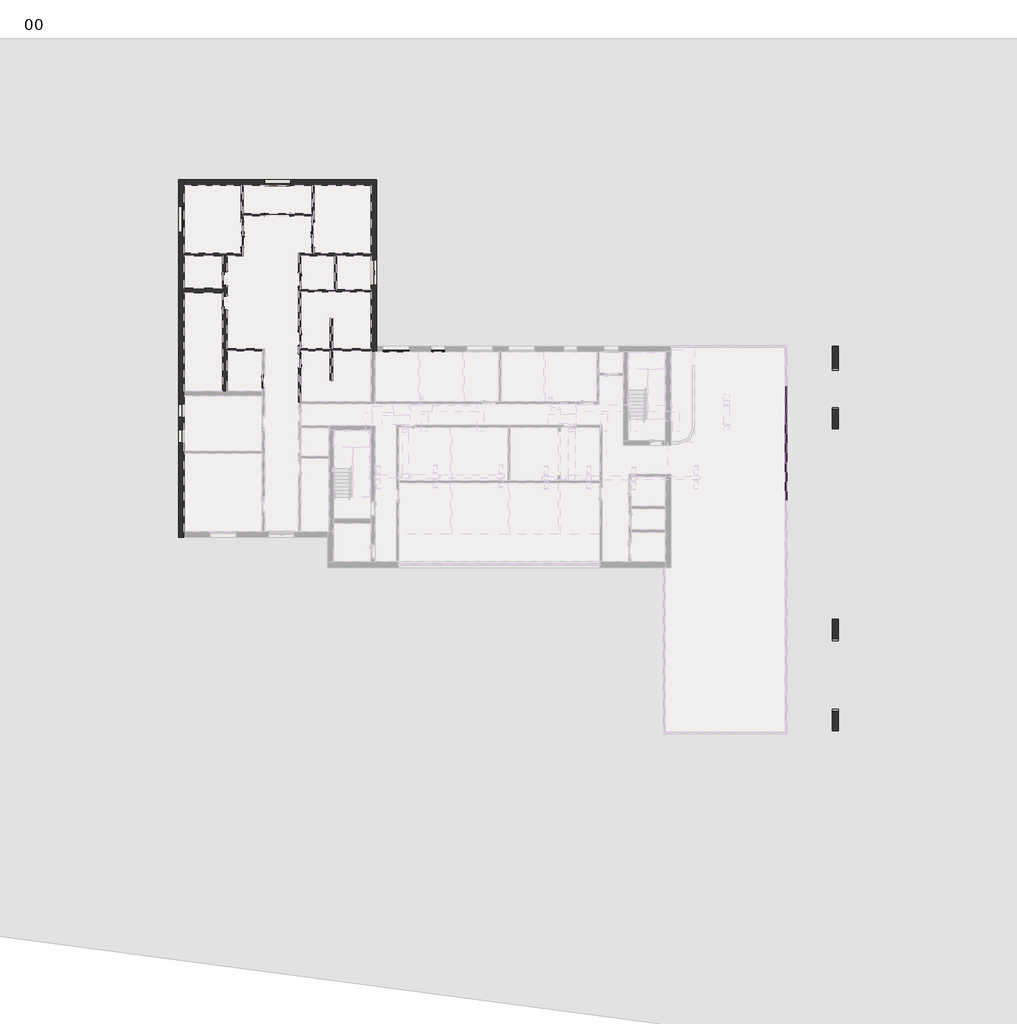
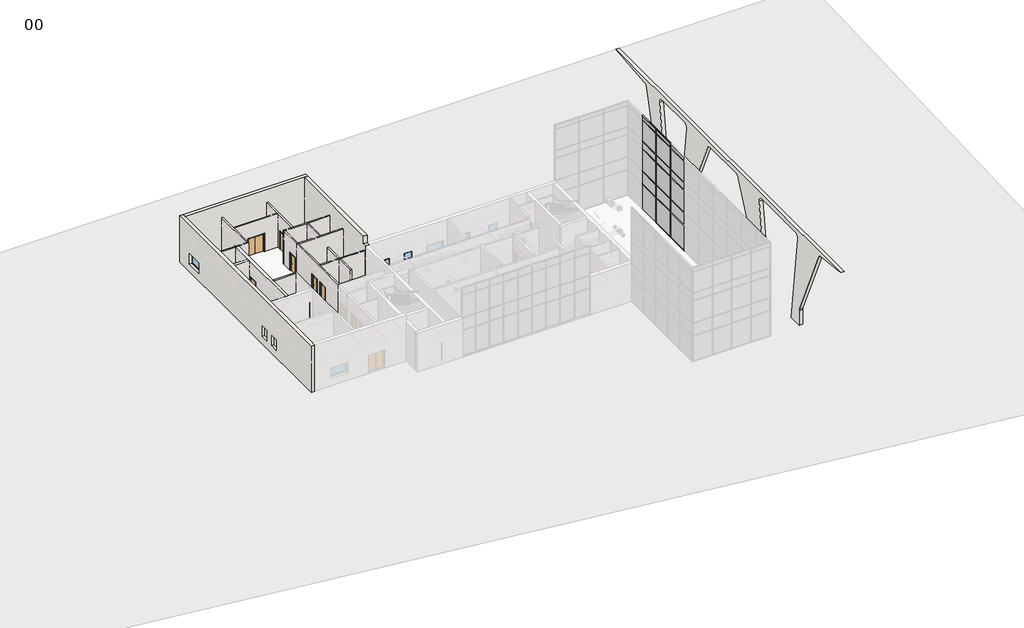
# One storey, part 6 of 12: 28 members, 19 walls, 18 plates, 10 doors, 3 windows.
"""IFC4 building model written with IfcOpenShell, lengths in millimetres."""

from ifc_helpers import new_model, si_unit, point, frame, frame_2d, origin, origin_with_axes, place, context, project, spatial, polyline, circle_curve, trimmed, segment, composite_curve, outline, extrude, faceted_brep, transform, mapped, element, save
from components import doors_concept_extdbl_1810x2110mm_68805f83, doors_concept_intdbl_1810x2110mm_1c066db9, doors_intdbl_3_1810x2110mm_64ebe9ef, doors_intdbl_3_1810x2110mm_1437e5d7, doors_intsgl_1_1010x2110mm_7920e6b8, doors_intsgl_1_1010x2110mm_12a6edaf, doors_intsgl_1_1010x2110mm_5517da8e, doors_intsgl_1_1010x2110mm_5eebe40c, rectangular_mullion_curtainwallmullion_rectangular_generic_8ae0e668, rectangular_mullion_curtainwallmullion_rectangular_generic_08fbcc14, rectangular_mullion_curtainwallmullion_rectangular_generic_5675a122, rectangular_mullion_curtainwallmullion_rectangular_generic_12ad56c0, rectangular_mullion_curtainwallmullion_rectangular_generic_bd817207, rectangular_mullion_curtainwallmullion_rectangular_generic_654ac675, rectangular_mullion_curtainwallmullion_rectangular_generic_c0600e94, rectangular_mullion_curtainwallmullion_rectangular_generic_c640f651, rectangular_mullion_curtainwallmullion_rectangular_generic_b2d53351, system_panel_curtainpanel_glazed_34fb785a, system_panel_curtainpanel_glazed_62d472f1, system_panel_curtainpanel_glazed_9c2ad216, system_panel_curtainpanel_solid_fc584997, system_panel_curtainpanel_solid_60141125, system_panel_curtainpanel_solid_5de49f81, windows_concept_plain_sgl_1810x1210mm_7f7241d7, windows_concept_plain_sgl_910x1210mm_ef0b7ad2

model = new_model("IFC4")

# Units and contexts
model_context = context("Model", 3, world=origin())
ifc_project = project(units=[si_unit("LENGTHUNIT", "METRE", prefix="MILLI")], contexts=[model_context])

# Site, building, storey
site = spatial("IfcSite", under=ifc_project)
building = spatial("IfcBuilding", under=site)
storey = spatial("IfcBuildingStorey", under=building, Name="00", Elevation=0.0)

# Doors
placement = place(None, origin())
doors_concept_extdbl_1810x2110mm_shape = doors_concept_extdbl_1810x2110mm_68805f83(model_context)
element("IfcDoor", 1, ObjectType="Doors_Concept_ExtDbl : 1810x2110mm", at=placement, inside=storey, context=model_context, shape_type="MappedRepresentation", body=[
    mapped(doors_concept_extdbl_1810x2110mm_shape, transform((418436.3206883, -369614.0026386, 0.0), x_axis=(-1.0, 0.0, 0.0), y_axis=(0.0, -1.0, 0.0), z_axis=(0.0, 0.0, 1.0))),
])
doors_concept_intdbl_1810x2110mm_shape = doors_concept_intdbl_1810x2110mm_1c066db9(model_context)
element("IfcDoor", 2, ObjectType="Doors_Concept_IntDbl : 1810x2110mm", at=placement, inside=storey, context=model_context, shape_type="MappedRepresentation", body=[
    mapped(doors_concept_intdbl_1810x2110mm_shape, transform((418436.3206883, -371890.0026386, 0.0), x_axis=(-1.0, 0.0, 0.0), y_axis=(0.0, -1.0, 0.0), z_axis=(0.0, 0.0, 1.0))),
])
doors_intdbl_3_1810x2110mm_shape = doors_intdbl_3_1810x2110mm_64ebe9ef(model_context)
doors_intdbl_3_1810x2110mm_2_shape = doors_intdbl_3_1810x2110mm_1437e5d7(model_context)
element("IfcDoor", 3, ObjectType="Doors_IntDbl_3 : 1810x2110mm", at=placement, inside=storey, context=model_context, shape_type="MappedRepresentation", body=[
    mapped(doors_intdbl_3_1810x2110mm_shape, transform((420937.3206883, -373289.5026386, 0.0), x_axis=(0.0, 1.0, 0.0), y_axis=(-1.0, 0.0, 0.0), z_axis=(0.0, 0.0, 1.0))),
    mapped(doors_intdbl_3_1810x2110mm_2_shape, transform((420937.3206883, -373289.5026386, 0.0), x_axis=(0.0, 1.0, 0.0), y_axis=(-1.0, 0.0, 0.0), z_axis=(0.0, 0.0, 1.0))),
])
element("IfcDoor", 4, ObjectType="Doors_IntDbl_3 : 1810x2110mm", at=placement, inside=storey, context=model_context, shape_type="MappedRepresentation", body=[
    mapped(doors_intdbl_3_1810x2110mm_shape, transform((415935.3206883, -373289.5026386, 0.0), x_axis=(0.0, -1.0, 0.0), y_axis=(1.0, 0.0, 0.0), z_axis=(0.0, 0.0, 1.0))),
    mapped(doors_intdbl_3_1810x2110mm_2_shape, transform((415935.3206883, -373289.5026386, 0.0), x_axis=(0.0, -1.0, 0.0), y_axis=(1.0, 0.0, 0.0), z_axis=(0.0, 0.0, 1.0))),
])
doors_intsgl_1_1010x2110mm_shape = doors_intsgl_1_1010x2110mm_7920e6b8(model_context)
element("IfcDoor", 5, ObjectType="Doors_IntSgl_1 : 1010x2110mm", at=placement, inside=storey, context=model_context, shape_type="MappedRepresentation", body=[
    mapped(doors_intsgl_1_1010x2110mm_shape, transform((417435.3206883, -383609.0026386, 0.0), x_axis=(0.0, -1.0, 0.0), y_axis=(1.0, 0.0, 0.0), z_axis=(0.0, 0.0, 1.0))),
])
element("IfcDoor", 6, ObjectType="Doors_IntSgl_1 : 1010x2110mm", at=placement, inside=storey, context=model_context, shape_type="MappedRepresentation", body=[
    mapped(doors_intsgl_1_1010x2110mm_shape, transform((419987.3206883, -382175.0026386, 0.0), x_axis=(0.0, 1.0, 0.0), y_axis=(-1.0, 0.0, 0.0), z_axis=(0.0, 0.0, 1.0))),
])
doors_intsgl_1_1010x2110mm_2_shape = doors_intsgl_1_1010x2110mm_12a6edaf(model_context)
element("IfcDoor", 7, ObjectType="Doors_IntSgl_1 : 1010x2110mm", at=placement, inside=storey, context=model_context, shape_type="MappedRepresentation", body=[
    mapped(doors_intsgl_1_1010x2110mm_2_shape, transform((419987.3206883, -380615.0026386, 0.0), x_axis=(0.0, -1.0, 0.0), y_axis=(1.0, 0.0, 0.0), z_axis=(0.0, 0.0, 1.0))),
])
element("IfcDoor", 8, ObjectType="Doors_IntSgl_1 : 1010x2110mm", at=placement, inside=storey, context=model_context, shape_type="MappedRepresentation", body=[
    mapped(doors_intsgl_1_1010x2110mm_2_shape, transform((419987.3206883, -376459.0026386, 0.0), x_axis=(0.0, -1.0, 0.0), y_axis=(1.0, 0.0, 0.0), z_axis=(0.0, 0.0, 1.0))),
])
doors_intsgl_1_1010x2110mm_3_shape = doors_intsgl_1_1010x2110mm_5517da8e(model_context)
element("IfcDoor", 9, ObjectType="Doors_IntSgl_1 : 1010x2110mm", at=placement, inside=storey, context=model_context, shape_type="MappedRepresentation", body=[
    mapped(doors_intsgl_1_1010x2110mm_3_shape, transform((414735.3206883, -378099.0026386, 0.0), x_axis=(0.0, 1.0, 0.0), y_axis=(-1.0, 0.0, 0.0), z_axis=(0.0, 0.0, 1.0))),
])
doors_intsgl_1_1010x2110mm_4_shape = doors_intsgl_1_1010x2110mm_5eebe40c(model_context)
element("IfcDoor", 10, ObjectType="Doors_IntSgl_1 : 1010x2110mm", at=placement, inside=storey, context=model_context, shape_type="MappedRepresentation", body=[
    mapped(doors_intsgl_1_1010x2110mm_4_shape, transform((414735.3206883, -376379.0026386, 0.0), x_axis=(0.0, -1.0, 0.0), y_axis=(1.0, 0.0, 0.0), z_axis=(0.0, 0.0, 1.0))),
])

# Members
rectangular_mullion_curtainwallmullion_rectangular_generic_shape = rectangular_mullion_curtainwallmullion_rectangular_generic_8ae0e668(model_context)
element("IfcMember", 11, ObjectType="Rectangular Mullion : CurtainWallMullion_Rectangular_Generic", at=placement, inside=storey, context=model_context, shape_type="MappedRepresentation", body=[
    mapped(rectangular_mullion_curtainwallmullion_rectangular_generic_shape, transform((454246.3206883, -386624.2026388, 10486.7), x_axis=(0.0, -1.0, 0.0), y_axis=(-1.0, 0.0, 0.0), z_axis=(0.0, 0.0, -1.0))),
])
element("IfcMember", 12, ObjectType="Rectangular Mullion : CurtainWallMullion_Rectangular_Generic", at=placement, inside=storey, context=model_context, shape_type="MappedRepresentation", body=[
    mapped(rectangular_mullion_curtainwallmullion_rectangular_generic_shape, transform((454246.3206883, -389338.8026387, 10486.7), x_axis=(0.0, -1.0, 0.0), y_axis=(-1.0, 0.0, 0.0), z_axis=(0.0, 0.0, -1.0))),
])
rectangular_mullion_curtainwallmullion_rectangular_generic_2_shape = rectangular_mullion_curtainwallmullion_rectangular_generic_08fbcc14(model_context)
element("IfcMember", 13, ObjectType="Rectangular Mullion : CurtainWallMullion_Rectangular_Generic", at=placement, inside=storey, context=model_context, shape_type="MappedRepresentation", body=[
    mapped(rectangular_mullion_curtainwallmullion_rectangular_generic_2_shape, transform((454246.3206883, -386624.2026388, 8000.0), x_axis=(0.0, -1.0, 0.0), y_axis=(-1.0, 0.0, 0.0), z_axis=(0.0, 0.0, -1.0))),
])
element("IfcMember", 14, ObjectType="Rectangular Mullion : CurtainWallMullion_Rectangular_Generic", at=placement, inside=storey, context=model_context, shape_type="MappedRepresentation", body=[
    mapped(rectangular_mullion_curtainwallmullion_rectangular_generic_2_shape, transform((454246.3206883, -389338.8026387, 8000.0), x_axis=(0.0, -1.0, 0.0), y_axis=(-1.0, 0.0, 0.0), z_axis=(0.0, 0.0, -1.0))),
])
rectangular_mullion_curtainwallmullion_rectangular_generic_3_shape = rectangular_mullion_curtainwallmullion_rectangular_generic_5675a122(model_context)
element("IfcMember", 15, ObjectType="Rectangular Mullion : CurtainWallMullion_Rectangular_Generic", at=placement, inside=storey, context=model_context, shape_type="MappedRepresentation", body=[
    mapped(rectangular_mullion_curtainwallmullion_rectangular_generic_3_shape, transform((454246.3206883, -386624.2026388, 50.0), x_axis=(0.0, -1.0, 0.0), y_axis=(-1.0, 0.0, 0.0), z_axis=(0.0, 0.0, -1.0))),
])
element("IfcMember", 16, ObjectType="Rectangular Mullion : CurtainWallMullion_Rectangular_Generic", at=placement, inside=storey, context=model_context, shape_type="MappedRepresentation", body=[
    mapped(rectangular_mullion_curtainwallmullion_rectangular_generic_3_shape, transform((454246.3206883, -389338.8026387, 50.0), x_axis=(0.0, -1.0, 0.0), y_axis=(-1.0, 0.0, 0.0), z_axis=(0.0, 0.0, -1.0))),
])
rectangular_mullion_curtainwallmullion_rectangular_generic_4_shape = rectangular_mullion_curtainwallmullion_rectangular_generic_12ad56c0(model_context)
element("IfcMember", 17, ObjectType="Rectangular Mullion : CurtainWallMullion_Rectangular_Generic", at=placement, inside=storey, context=model_context, shape_type="MappedRepresentation", body=[
    mapped(rectangular_mullion_curtainwallmullion_rectangular_generic_4_shape, transform((454246.3206883, -386624.2026388, 11000.0), x_axis=(0.0, 0.0, 1.0), y_axis=(-1.0, 0.0, 0.0), z_axis=(0.0, -1.0, 0.0))),
])
element("IfcMember", 18, ObjectType="Rectangular Mullion : CurtainWallMullion_Rectangular_Generic", at=placement, inside=storey, context=model_context, shape_type="MappedRepresentation", body=[
    mapped(rectangular_mullion_curtainwallmullion_rectangular_generic_4_shape, transform((454246.3206883, -389338.8026387, 11000.0), x_axis=(0.0, 0.0, 1.0), y_axis=(-1.0, 0.0, 0.0), z_axis=(0.0, -1.0, 0.0))),
])
element("IfcMember", 19, ObjectType="Rectangular Mullion : CurtainWallMullion_Rectangular_Generic", at=placement, inside=storey, context=model_context, shape_type="MappedRepresentation", body=[
    mapped(rectangular_mullion_curtainwallmullion_rectangular_generic_4_shape, transform((454246.3206883, -386624.2026388, 0.0), x_axis=(0.0, 0.0, -1.0), y_axis=(-1.0, 0.0, 0.0), z_axis=(0.0, 1.0, 0.0))),
])
element("IfcMember", 20, ObjectType="Rectangular Mullion : CurtainWallMullion_Rectangular_Generic", at=placement, inside=storey, context=model_context, shape_type="MappedRepresentation", body=[
    mapped(rectangular_mullion_curtainwallmullion_rectangular_generic_4_shape, transform((454246.3206883, -389338.8026387, 0.0), x_axis=(0.0, 0.0, -1.0), y_axis=(-1.0, 0.0, 0.0), z_axis=(0.0, 1.0, 0.0))),
])
rectangular_mullion_curtainwallmullion_rectangular_generic_5_shape = rectangular_mullion_curtainwallmullion_rectangular_generic_bd817207(model_context)
element("IfcMember", 21, ObjectType="Rectangular Mullion : CurtainWallMullion_Rectangular_Generic", at=placement, inside=storey, context=model_context, shape_type="MappedRepresentation", body=[
    mapped(rectangular_mullion_curtainwallmullion_rectangular_generic_5_shape, transform((454246.3206883, -386599.2026388, 4500.0), x_axis=(0.0, 0.0, 1.0), y_axis=(-1.0, 0.0, 0.0), z_axis=(0.0, -1.0, 0.0))),
])
element("IfcMember", 22, ObjectType="Rectangular Mullion : CurtainWallMullion_Rectangular_Generic", at=placement, inside=storey, context=model_context, shape_type="MappedRepresentation", body=[
    mapped(rectangular_mullion_curtainwallmullion_rectangular_generic_5_shape, transform((454246.3206883, -389313.8026387, 4500.0), x_axis=(0.0, 0.0, 1.0), y_axis=(-1.0, 0.0, 0.0), z_axis=(0.0, -1.0, 0.0))),
])
element("IfcMember", 23, ObjectType="Rectangular Mullion : CurtainWallMullion_Rectangular_Generic", at=placement, inside=storey, context=model_context, shape_type="MappedRepresentation", body=[
    mapped(rectangular_mullion_curtainwallmullion_rectangular_generic_5_shape, transform((454246.3206883, -386599.2026388, 7100.0), x_axis=(0.0, 0.0, 1.0), y_axis=(-1.0, 0.0, 0.0), z_axis=(0.0, -1.0, 0.0))),
])
element("IfcMember", 24, ObjectType="Rectangular Mullion : CurtainWallMullion_Rectangular_Generic", at=placement, inside=storey, context=model_context, shape_type="MappedRepresentation", body=[
    mapped(rectangular_mullion_curtainwallmullion_rectangular_generic_5_shape, transform((454246.3206883, -389313.8026387, 7100.0), x_axis=(0.0, 0.0, 1.0), y_axis=(-1.0, 0.0, 0.0), z_axis=(0.0, -1.0, 0.0))),
])
element("IfcMember", 25, ObjectType="Rectangular Mullion : CurtainWallMullion_Rectangular_Generic", at=placement, inside=storey, context=model_context, shape_type="MappedRepresentation", body=[
    mapped(rectangular_mullion_curtainwallmullion_rectangular_generic_5_shape, transform((454246.3206883, -386599.2026388, 10486.7), x_axis=(0.0, 0.0, 1.0), y_axis=(-1.0, 0.0, 0.0), z_axis=(0.0, -1.0, 0.0))),
])
element("IfcMember", 26, ObjectType="Rectangular Mullion : CurtainWallMullion_Rectangular_Generic", at=placement, inside=storey, context=model_context, shape_type="MappedRepresentation", body=[
    mapped(rectangular_mullion_curtainwallmullion_rectangular_generic_5_shape, transform((454246.3206883, -389313.8026387, 10486.7), x_axis=(0.0, 0.0, 1.0), y_axis=(-1.0, 0.0, 0.0), z_axis=(0.0, -1.0, 0.0))),
])
element("IfcMember", 27, ObjectType="Rectangular Mullion : CurtainWallMullion_Rectangular_Generic", at=placement, inside=storey, context=model_context, shape_type="MappedRepresentation", body=[
    mapped(rectangular_mullion_curtainwallmullion_rectangular_generic_5_shape, transform((454246.3206883, -386599.2026388, 8000.0), x_axis=(0.0, 0.0, 1.0), y_axis=(-1.0, 0.0, 0.0), z_axis=(0.0, -1.0, 0.0))),
])
element("IfcMember", 28, ObjectType="Rectangular Mullion : CurtainWallMullion_Rectangular_Generic", at=placement, inside=storey, context=model_context, shape_type="MappedRepresentation", body=[
    mapped(rectangular_mullion_curtainwallmullion_rectangular_generic_5_shape, transform((454246.3206883, -389313.8026387, 8000.0), x_axis=(0.0, 0.0, 1.0), y_axis=(-1.0, 0.0, 0.0), z_axis=(0.0, -1.0, 0.0))),
])
element("IfcMember", 29, ObjectType="Rectangular Mullion : CurtainWallMullion_Rectangular_Generic", at=placement, inside=storey, context=model_context, shape_type="MappedRepresentation", body=[
    mapped(rectangular_mullion_curtainwallmullion_rectangular_generic_5_shape, transform((454246.3206883, -386599.2026388, 3000.0), x_axis=(0.0, 0.0, 1.0), y_axis=(-1.0, 0.0, 0.0), z_axis=(0.0, -1.0, 0.0))),
])
element("IfcMember", 30, ObjectType="Rectangular Mullion : CurtainWallMullion_Rectangular_Generic", at=placement, inside=storey, context=model_context, shape_type="MappedRepresentation", body=[
    mapped(rectangular_mullion_curtainwallmullion_rectangular_generic_5_shape, transform((454246.3206883, -389313.8026387, 3000.0), x_axis=(0.0, 0.0, 1.0), y_axis=(-1.0, 0.0, 0.0), z_axis=(0.0, -1.0, 0.0))),
])
rectangular_mullion_curtainwallmullion_rectangular_generic_6_shape = rectangular_mullion_curtainwallmullion_rectangular_generic_654ac675(model_context)
element("IfcMember", 31, ObjectType="Rectangular Mullion : CurtainWallMullion_Rectangular_Generic", at=placement, inside=storey, context=model_context, shape_type="MappedRepresentation", body=[
    mapped(rectangular_mullion_curtainwallmullion_rectangular_generic_6_shape, transform((454246.3206883, -386624.2026388, 4500.0), x_axis=(0.0, -1.0, 0.0), y_axis=(-1.0, 0.0, 0.0), z_axis=(0.0, 0.0, -1.0))),
])
element("IfcMember", 32, ObjectType="Rectangular Mullion : CurtainWallMullion_Rectangular_Generic", at=placement, inside=storey, context=model_context, shape_type="MappedRepresentation", body=[
    mapped(rectangular_mullion_curtainwallmullion_rectangular_generic_6_shape, transform((454246.3206883, -389338.8026387, 4500.0), x_axis=(0.0, -1.0, 0.0), y_axis=(-1.0, 0.0, 0.0), z_axis=(0.0, 0.0, -1.0))),
])
rectangular_mullion_curtainwallmullion_rectangular_generic_7_shape = rectangular_mullion_curtainwallmullion_rectangular_generic_c0600e94(model_context)
element("IfcMember", 33, ObjectType="Rectangular Mullion : CurtainWallMullion_Rectangular_Generic", at=placement, inside=storey, context=model_context, shape_type="MappedRepresentation", body=[
    mapped(rectangular_mullion_curtainwallmullion_rectangular_generic_7_shape, transform((454246.3206883, -386624.2026388, 3000.0), x_axis=(0.0, -1.0, 0.0), y_axis=(-1.0, 0.0, 0.0), z_axis=(0.0, 0.0, -1.0))),
])
element("IfcMember", 34, ObjectType="Rectangular Mullion : CurtainWallMullion_Rectangular_Generic", at=placement, inside=storey, context=model_context, shape_type="MappedRepresentation", body=[
    mapped(rectangular_mullion_curtainwallmullion_rectangular_generic_7_shape, transform((454246.3206883, -389338.8026387, 3000.0), x_axis=(0.0, -1.0, 0.0), y_axis=(-1.0, 0.0, 0.0), z_axis=(0.0, 0.0, -1.0))),
])
rectangular_mullion_curtainwallmullion_rectangular_generic_8_shape = rectangular_mullion_curtainwallmullion_rectangular_generic_c640f651(model_context)
element("IfcMember", 35, ObjectType="Rectangular Mullion : CurtainWallMullion_Rectangular_Generic", at=placement, inside=storey, context=model_context, shape_type="MappedRepresentation", body=[
    mapped(rectangular_mullion_curtainwallmullion_rectangular_generic_8_shape, transform((454246.3206883, -386624.2026388, 7100.0), x_axis=(0.0, -1.0, 0.0), y_axis=(-1.0, 0.0, 0.0), z_axis=(0.0, 0.0, -1.0))),
])
element("IfcMember", 36, ObjectType="Rectangular Mullion : CurtainWallMullion_Rectangular_Generic", at=placement, inside=storey, context=model_context, shape_type="MappedRepresentation", body=[
    mapped(rectangular_mullion_curtainwallmullion_rectangular_generic_8_shape, transform((454246.3206883, -389338.8026387, 7100.0), x_axis=(0.0, -1.0, 0.0), y_axis=(-1.0, 0.0, 0.0), z_axis=(0.0, 0.0, -1.0))),
])
rectangular_mullion_curtainwallmullion_rectangular_generic_9_shape = rectangular_mullion_curtainwallmullion_rectangular_generic_b2d53351(model_context)
element("IfcMember", 37, ObjectType="Rectangular Mullion : CurtainWallMullion_Rectangular_Generic", at=placement, inside=storey, context=model_context, shape_type="MappedRepresentation", body=[
    mapped(rectangular_mullion_curtainwallmullion_rectangular_generic_9_shape, transform((454246.3206883, -386624.2026388, 2425.0), x_axis=(0.0, -1.0, 0.0), y_axis=(-1.0, 0.0, 0.0), z_axis=(0.0, 0.0, -1.0))),
])
element("IfcMember", 38, ObjectType="Rectangular Mullion : CurtainWallMullion_Rectangular_Generic", at=placement, inside=storey, context=model_context, shape_type="MappedRepresentation", body=[
    mapped(rectangular_mullion_curtainwallmullion_rectangular_generic_9_shape, transform((454246.3206883, -389338.8026387, 2425.0), x_axis=(0.0, -1.0, 0.0), y_axis=(-1.0, 0.0, 0.0), z_axis=(0.0, 0.0, -1.0))),
])

# Plates
system_panel_curtainpanel_glazed_shape = system_panel_curtainpanel_glazed_34fb785a(model_context)
element("IfcPlate", 39, ObjectType="System Panel : CurtainPanel_Glazed", at=placement, inside=storey, context=model_context, shape_type="MappedRepresentation", body=[
    mapped(system_panel_curtainpanel_glazed_shape, transform((454246.3206883, -385266.9026388, 8025.0), x_axis=(0.0, -1.0, 0.0), y_axis=(1.0, 0.0, 0.0), z_axis=(0.0, 0.0, 1.0))),
])
element("IfcPlate", 40, ObjectType="System Panel : CurtainPanel_Glazed", at=placement, inside=storey, context=model_context, shape_type="MappedRepresentation", body=[
    mapped(system_panel_curtainpanel_glazed_shape, transform((454246.3206883, -387981.5026388, 8025.0), x_axis=(0.0, -1.0, 0.0), y_axis=(1.0, 0.0, 0.0), z_axis=(0.0, 0.0, 1.0))),
])
element("IfcPlate", 41, ObjectType="System Panel : CurtainPanel_Glazed", at=placement, inside=storey, context=model_context, shape_type="MappedRepresentation", body=[
    mapped(system_panel_curtainpanel_glazed_shape, transform((454246.3206883, -390696.1026387, 8025.0), x_axis=(0.0, -1.0, 0.0), y_axis=(1.0, 0.0, 0.0), z_axis=(0.0, 0.0, 1.0))),
])
system_panel_curtainpanel_glazed_2_shape = system_panel_curtainpanel_glazed_62d472f1(model_context)
element("IfcPlate", 42, ObjectType="System Panel : CurtainPanel_Glazed", at=placement, inside=storey, context=model_context, shape_type="MappedRepresentation", body=[
    mapped(system_panel_curtainpanel_glazed_2_shape, transform((454246.3206883, -385266.9026388, 50.0), x_axis=(0.0, -1.0, 0.0), y_axis=(1.0, 0.0, 0.0), z_axis=(0.0, 0.0, 1.0))),
])
element("IfcPlate", 43, ObjectType="System Panel : CurtainPanel_Glazed", at=placement, inside=storey, context=model_context, shape_type="MappedRepresentation", body=[
    mapped(system_panel_curtainpanel_glazed_2_shape, transform((454246.3206883, -387981.5026388, 50.0), x_axis=(0.0, -1.0, 0.0), y_axis=(1.0, 0.0, 0.0), z_axis=(0.0, 0.0, 1.0))),
])
element("IfcPlate", 44, ObjectType="System Panel : CurtainPanel_Glazed", at=placement, inside=storey, context=model_context, shape_type="MappedRepresentation", body=[
    mapped(system_panel_curtainpanel_glazed_2_shape, transform((454246.3206883, -390696.1026387, 50.0), x_axis=(0.0, -1.0, 0.0), y_axis=(1.0, 0.0, 0.0), z_axis=(0.0, 0.0, 1.0))),
])
system_panel_curtainpanel_glazed_3_shape = system_panel_curtainpanel_glazed_9c2ad216(model_context)
element("IfcPlate", 45, ObjectType="System Panel : CurtainPanel_Glazed", at=placement, inside=storey, context=model_context, shape_type="MappedRepresentation", body=[
    mapped(system_panel_curtainpanel_glazed_3_shape, transform((454246.3206883, -385266.9026388, 4525.0), x_axis=(0.0, -1.0, 0.0), y_axis=(1.0, 0.0, 0.0), z_axis=(0.0, 0.0, 1.0))),
])
element("IfcPlate", 46, ObjectType="System Panel : CurtainPanel_Glazed", at=placement, inside=storey, context=model_context, shape_type="MappedRepresentation", body=[
    mapped(system_panel_curtainpanel_glazed_3_shape, transform((454246.3206883, -387981.5026388, 4525.0), x_axis=(0.0, -1.0, 0.0), y_axis=(1.0, 0.0, 0.0), z_axis=(0.0, 0.0, 1.0))),
])
element("IfcPlate", 47, ObjectType="System Panel : CurtainPanel_Glazed", at=placement, inside=storey, context=model_context, shape_type="MappedRepresentation", body=[
    mapped(system_panel_curtainpanel_glazed_3_shape, transform((454246.3206883, -390696.1026387, 4525.0), x_axis=(0.0, -1.0, 0.0), y_axis=(1.0, 0.0, 0.0), z_axis=(0.0, 0.0, 1.0))),
])
system_panel_curtainpanel_solid_shape = system_panel_curtainpanel_solid_fc584997(model_context)
element("IfcPlate", 48, ObjectType="System Panel : CurtainPanel_Solid", at=placement, inside=storey, context=model_context, shape_type="MappedRepresentation", body=[
    mapped(system_panel_curtainpanel_solid_shape, transform((454246.3206883, -385266.9026388, 10511.7), x_axis=(0.0, -1.0, 0.0), y_axis=(1.0, 0.0, 0.0), z_axis=(0.0, 0.0, 1.0))),
])
element("IfcPlate", 49, ObjectType="System Panel : CurtainPanel_Solid", at=placement, inside=storey, context=model_context, shape_type="MappedRepresentation", body=[
    mapped(system_panel_curtainpanel_solid_shape, transform((454246.3206883, -387981.5026388, 10511.7), x_axis=(0.0, -1.0, 0.0), y_axis=(1.0, 0.0, 0.0), z_axis=(0.0, 0.0, 1.0))),
])
element("IfcPlate", 50, ObjectType="System Panel : CurtainPanel_Solid", at=placement, inside=storey, context=model_context, shape_type="MappedRepresentation", body=[
    mapped(system_panel_curtainpanel_solid_shape, transform((454246.3206883, -390696.1026387, 10511.7), x_axis=(0.0, -1.0, 0.0), y_axis=(1.0, 0.0, 0.0), z_axis=(0.0, 0.0, 1.0))),
])
system_panel_curtainpanel_solid_2_shape = system_panel_curtainpanel_solid_60141125(model_context)
element("IfcPlate", 51, ObjectType="System Panel : CurtainPanel_Solid", at=placement, inside=storey, context=model_context, shape_type="MappedRepresentation", body=[
    mapped(system_panel_curtainpanel_solid_2_shape, transform((454246.3206883, -385266.9026388, 3025.0), x_axis=(0.0, -1.0, 0.0), y_axis=(1.0, 0.0, 0.0), z_axis=(0.0, 0.0, 1.0))),
])
element("IfcPlate", 52, ObjectType="System Panel : CurtainPanel_Solid", at=placement, inside=storey, context=model_context, shape_type="MappedRepresentation", body=[
    mapped(system_panel_curtainpanel_solid_2_shape, transform((454246.3206883, -387981.5026388, 3025.0), x_axis=(0.0, -1.0, 0.0), y_axis=(1.0, 0.0, 0.0), z_axis=(0.0, 0.0, 1.0))),
])
element("IfcPlate", 53, ObjectType="System Panel : CurtainPanel_Solid", at=placement, inside=storey, context=model_context, shape_type="MappedRepresentation", body=[
    mapped(system_panel_curtainpanel_solid_2_shape, transform((454246.3206883, -390696.1026387, 3025.0), x_axis=(0.0, -1.0, 0.0), y_axis=(1.0, 0.0, 0.0), z_axis=(0.0, 0.0, 1.0))),
])
system_panel_curtainpanel_solid_3_shape = system_panel_curtainpanel_solid_5de49f81(model_context)
element("IfcPlate", 54, ObjectType="System Panel : CurtainPanel_Solid", at=placement, inside=storey, context=model_context, shape_type="MappedRepresentation", body=[
    mapped(system_panel_curtainpanel_solid_3_shape, transform((454246.3206883, -385266.9026388, 7125.0), x_axis=(0.0, -1.0, 0.0), y_axis=(1.0, 0.0, 0.0), z_axis=(0.0, 0.0, 1.0))),
])
element("IfcPlate", 55, ObjectType="System Panel : CurtainPanel_Solid", at=placement, inside=storey, context=model_context, shape_type="MappedRepresentation", body=[
    mapped(system_panel_curtainpanel_solid_3_shape, transform((454246.3206883, -387981.5026388, 7125.0), x_axis=(0.0, -1.0, 0.0), y_axis=(1.0, 0.0, 0.0), z_axis=(0.0, 0.0, 1.0))),
])
element("IfcPlate", 56, ObjectType="System Panel : CurtainPanel_Solid", at=placement, inside=storey, context=model_context, shape_type="MappedRepresentation", body=[
    mapped(system_panel_curtainpanel_solid_3_shape, transform((454246.3206883, -390696.1026387, 7125.0), x_axis=(0.0, -1.0, 0.0), y_axis=(1.0, 0.0, 0.0), z_axis=(0.0, 0.0, 1.0))),
])

# Walls
element("IfcWall", 57, ObjectType="Wall_Exterior_WSUK", at=placement, inside=storey, context=model_context, shape_type="Brep", body=[
    faceted_brep([(411860.3206883, -394596.0026386, -1000.0), (411860.3206883, -394194.0026386, -1000.0), (411860.3206883, -369815.0026386, -1000.0), (411860.3206883, -369413.0026386, -1000.0), (411860.3206883, -369413.0026386, 5400.0), (411860.3206883, -369815.0026386, 5400.0), (411860.3206883, -394194.0026386, 5400.0), (411860.3206883, -394596.0026386, 5400.0), (411860.3206883, -371309.5026386, 2110.0), (411860.3206883, -371309.5026386, 900.0), (411860.3206883, -373119.5026386, 900.0), (411860.3206883, -373119.5026386, 2110.0), (411860.3206883, -385224.0026386, 2110.0), (411860.3206883, -385224.0026386, 900.0), (411860.3206883, -386134.0026386, 900.0), (411860.3206883, -386134.0026386, 2110.0), (411860.3206883, -387034.0026386, 2110.0), (411860.3206883, -387034.0026386, 900.0), (411860.3206883, -387944.0026386, 900.0), (411860.3206883, -387944.0026386, 2110.0), (411458.3206883, -394596.0026386, -1000.0), (411458.3206883, -394596.0026386, 5400.0), (411458.3206883, -369413.0026386, 5400.0), (411458.3206883, -369413.0026386, -1000.0), (411458.3206883, -371309.5026386, 2110.0), (411458.3206883, -373119.5026386, 2110.0), (411458.3206883, -373119.5026386, 900.0), (411458.3206883, -371309.5026386, 900.0), (411458.3206883, -385224.0026386, 2110.0), (411458.3206883, -386134.0026386, 2110.0), (411458.3206883, -386134.0026386, 900.0), (411458.3206883, -385224.0026386, 900.0), (411458.3206883, -387034.0026386, 2110.0), (411458.3206883, -387944.0026386, 2110.0), (411458.3206883, -387944.0026386, 900.0), (411458.3206883, -387034.0026386, 900.0)], [[[0, 1, 2, 3, 4, 5, 6, 7], [8, 9, 10, 11], [12, 13, 14, 15], [16, 17, 18, 19]], [[20, 21, 22, 23], [24, 25, 26, 27], [28, 29, 30, 31], [32, 33, 34, 35]], [[3, 2, 1, 0, 20, 23]], [[7, 6, 5, 4, 22, 21]], [[9, 8, 24, 27]], [[10, 9, 27, 26]], [[11, 10, 26, 25]], [[8, 11, 25, 24]], [[13, 12, 28, 31]], [[14, 13, 31, 30]], [[15, 14, 30, 29]], [[12, 15, 29, 28]], [[17, 16, 32, 35]], [[18, 17, 35, 34]], [[19, 18, 34, 33]], [[16, 19, 33, 32]], [[4, 3, 23, 22]], [[0, 7, 21, 20]]]),
])
element("IfcWall", 58, ObjectType="Wall_Exterior_WSUK", at=placement, inside=storey, context=model_context, shape_type="Brep", body=[
    faceted_brep([(411860.3206883, -369815.0026386, -1000.0), (425012.3206883, -369815.0026386, -1000.0), (425414.3206883, -369815.0026386, -1000.0), (425414.3206883, -369815.0026386, 5400.0), (425012.3206883, -369815.0026386, 5400.0), (411860.3206883, -369815.0026386, 5400.0), (419341.3206883, -369815.0026386, 2110.0), (419341.3206883, -369815.0026386, 0.0), (417531.3206883, -369815.0026386, 0.0), (417531.3206883, -369815.0026386, 2110.0), (425414.3206883, -369413.0026386, -1000.0), (411860.3206883, -369413.0026386, -1000.0), (411860.3206883, -369413.0026386, 5400.0), (425414.3206883, -369413.0026386, 5400.0), (419341.3206883, -369413.0026386, 0.0), (419341.3206883, -369413.0026386, 2110.0), (417531.3206883, -369413.0026386, 2110.0), (417531.3206883, -369413.0026386, 0.0)], [[[0, 1, 2, 3, 4, 5], [6, 7, 8, 9]], [[10, 11, 12, 13], [14, 15, 16, 17]], [[2, 1, 0, 11, 10]], [[5, 4, 3, 13, 12]], [[3, 2, 10, 13]], [[6, 15, 14, 7]], [[7, 14, 17, 8]], [[8, 17, 16, 9]], [[15, 6, 9, 16]], [[0, 5, 12, 11]]]),
])
element("IfcWall", 59, ObjectType="Wall_Exterior_WSUK", at=placement, inside=storey, context=model_context, shape_type="Brep", body=[
    faceted_brep([(425012.3206883, -369815.0026386, -1000.0), (425012.3206883, -381550.0026386, -1000.0), (425012.3206883, -381550.0026386, 4500.0), (425012.3206883, -381148.0026386, 4500.0), (425012.3206883, -381148.0026386, 5400.0), (425012.3206883, -369815.0026386, 5400.0), (425012.3206883, -376844.0026386, 0.0), (425012.3206883, -375084.0026386, 0.0), (425012.3206883, -375084.0026386, 2110.0), (425012.3206883, -376844.0026386, 2110.0), (425414.3206883, -381550.0026386, -1000.0), (425414.3206883, -381148.0026386, -1000.0), (425414.3206883, -369815.0026386, -1000.0), (425414.3206883, -369815.0026386, 5400.0), (425414.3206883, -381148.0026386, 5400.0), (425414.3206883, -381148.0026386, 4500.0), (425414.3206883, -381550.0026386, 4500.0), (425414.3206883, -375059.0026386, 2110.0), (425414.3206883, -375059.0026386, 0.0), (425414.3206883, -376869.0026386, 0.0), (425414.3206883, -376869.0026386, 2110.0), (425322.3206883, -381550.0026386, -1000.0), (425114.8206883, -376869.0026386, 2110.0), (425114.8206883, -376869.0026386, 0.0), (425114.8206883, -376844.0026386, 0.0), (425114.8206883, -376844.0026386, 2110.0), (425114.8206883, -375059.0026386, 0.0), (425114.8206883, -375059.0026386, 2110.0), (425114.8206883, -375084.0026386, 2110.0), (425114.8206883, -375084.0026386, 0.0), (425322.3206883, -381550.0026386, 4500.0)], [[[0, 1, 2, 3, 4, 5], [6, 7, 8, 9]], [[10, 11, 12, 13, 14, 15, 16], [17, 18, 19, 20]], [[1, 0, 12, 11, 10, 21]], [[5, 4, 14, 13]], [[0, 5, 13, 12]], [[22, 23, 24, 25]], [[26, 27, 28, 29]], [[27, 26, 18, 17]], [[24, 23, 19, 18, 26, 29, 7, 6]], [[23, 22, 20, 19]], [[22, 25, 9, 8, 28, 27, 17, 20]], [[25, 24, 6, 9]], [[29, 28, 8, 7]], [[3, 2, 30, 16, 15]], [[1, 21, 10, 16, 30, 2]], [[14, 4, 3, 15]]]),
])
element("IfcWall", 60, ObjectType="Wall_Interior_WSUK", at=placement, inside=storey, context=model_context, shape_type="Brep", body=[
    faceted_brep([(420062.3206883, -377314.0026386, 0.0), (425012.3206883, -377314.0026386, 0.0), (425012.3206883, -377314.0026386, 3900.0), (420062.3206883, -377314.0026386, 3900.0), (420062.3206883, -377164.0026386, 0.0), (420062.3206883, -377164.0026386, 3900.0), (422462.3206883, -377164.0026386, 3900.0), (422612.3206883, -377164.0026386, 3900.0), (425012.3206883, -377164.0026386, 3900.0), (425012.3206883, -377164.0026386, 0.0), (422612.3206883, -377164.0026386, 0.0), (422462.3206883, -377164.0026386, 0.0)], [[[0, 1, 2, 3]], [[4, 5, 6, 7, 8, 9, 10, 11]], [[1, 0, 4, 11, 10, 9]], [[3, 2, 8, 7, 6, 5]], [[0, 3, 5, 4]], [[2, 1, 9, 8]]]),
])
element("IfcWall", 61, ObjectType="Wall_Interior_WSUK", at=placement, inside=storey, context=model_context, shape_type="SweptSolid", body=[
    extrude(outline(polyline([(-377164.0026386, 3900.0), (-374764.0026386, 3900.0), (-374764.0026386, 0.0), (-375954.0026386, 0.0), (-375954.0026386, 2110.0), (-376964.0026386, 2110.0), (-376964.0026386, 0.0), (-377164.0026386, 0.0), (-377164.0026386, 3900.0)])), frame((419912.3206883, 0.0, 0.0), z_axis=(1.0, 0.0, 0.0), x_axis=(0.0, 1.0, 0.0)), (0.0, 0.0, 1.0), 150.0),
])
element("IfcWall", 62, ObjectType="Wall_Interior_WSUK", at=placement, inside=storey, context=model_context, shape_type="Brep", body=[
    faceted_brep([(420062.3206883, -377164.0026386, 3900.0), (420062.3206883, -377314.0026386, 3900.0), (420062.3206883, -381320.0026386, 3900.0), (420062.3206883, -381470.0026386, 3900.0), (420062.3206883, -385049.0026386, 3900.0), (420062.3206883, -385124.0026386, 3900.0), (420062.3206883, -385124.0026386, 0.0), (420062.3206883, -385049.0026386, 0.0), (420062.3206883, -382680.0026386, 0.0), (420062.3206883, -382680.0026386, 2110.0), (420062.3206883, -381670.0026386, 2110.0), (420062.3206883, -381670.0026386, 0.0), (420062.3206883, -381470.0026386, 0.0), (420062.3206883, -381320.0026386, 0.0), (420062.3206883, -381120.0026386, 0.0), (420062.3206883, -381120.0026386, 2110.0), (420062.3206883, -380110.0026386, 2110.0), (420062.3206883, -380110.0026386, 0.0), (420062.3206883, -377314.0026386, 0.0), (420062.3206883, -377164.0026386, 0.0), (419912.3206883, -385124.0026386, 3900.0), (419912.3206883, -377164.0026386, 3900.0), (419912.3206883, -377164.0026386, 0.0), (419912.3206883, -380110.0026386, 0.0), (419912.3206883, -380110.0026386, 2110.0), (419912.3206883, -381120.0026386, 2110.0), (419912.3206883, -381120.0026386, 0.0), (419912.3206883, -381670.0026386, 0.0), (419912.3206883, -381670.0026386, 2110.0), (419912.3206883, -382680.0026386, 2110.0), (419912.3206883, -382680.0026386, 0.0), (419912.3206883, -385124.0026386, 0.0)], [[[0, 1, 2, 3, 4, 5, 6, 7, 8, 9, 10, 11, 12, 13, 14, 15, 16, 17, 18, 19]], [[20, 21, 22, 23, 24, 25, 26, 27, 28, 29, 30, 31]], [[6, 31, 30, 8, 7]], [[22, 19, 18, 17, 23]], [[11, 27, 26, 14, 13, 12]], [[5, 4, 3, 2, 1, 0, 21, 20]], [[6, 5, 20, 31]], [[0, 19, 22, 21]], [[10, 28, 27, 11]], [[28, 10, 9, 29]], [[29, 9, 8, 30]], [[25, 15, 14, 26]], [[15, 25, 24, 16]], [[16, 24, 23, 17]]]),
])
element("IfcWall", 63, ObjectType="Wall_Exterior_WSUK 2hr", at=placement, inside=storey, context=model_context, shape_type="Brep", body=[
    faceted_brep([(414890.3206883, -374764.0026386, 3900.0), (414890.3206883, -381320.0026386, 3900.0), (414890.3206883, -381470.0026386, 3900.0), (414890.3206883, -384314.0026386, 3900.0), (414890.3206883, -384314.0026386, 0.0), (414890.3206883, -381470.0026386, 0.0), (414890.3206883, -381320.0026386, 0.0), (414890.3206883, -378604.0026386, 0.0), (414890.3206883, -378604.0026386, 2110.0), (414890.3206883, -377594.0026386, 2110.0), (414890.3206883, -377594.0026386, 0.0), (414890.3206883, -376884.0026386, 0.0), (414890.3206883, -376884.0026386, 2110.0), (414890.3206883, -375874.0026386, 2110.0), (414890.3206883, -375874.0026386, 0.0), (414890.3206883, -374764.0026386, 0.0), (414580.3206883, -384314.0026386, 3900.0), (414580.3206883, -377394.0026386, 3900.0), (414580.3206883, -377084.0026386, 3900.0), (414580.3206883, -374764.0026386, 3900.0), (414580.3206883, -374764.0026386, 0.0), (414580.3206883, -375874.0026386, 0.0), (414580.3206883, -375874.0026386, 2110.0), (414580.3206883, -376884.0026386, 2110.0), (414580.3206883, -376884.0026386, 0.0), (414580.3206883, -377084.0026386, 0.0), (414580.3206883, -377394.0026386, 0.0), (414580.3206883, -377594.0026386, 0.0), (414580.3206883, -377594.0026386, 2110.0), (414580.3206883, -378604.0026386, 2110.0), (414580.3206883, -378604.0026386, 0.0), (414580.3206883, -384314.0026386, 0.0)], [[[0, 1, 2, 3, 4, 5, 6, 7, 8, 9, 10, 11, 12, 13, 14, 15]], [[16, 17, 18, 19, 20, 21, 22, 23, 24, 25, 26, 27, 28, 29, 30, 31]], [[4, 31, 30, 7, 6, 5]], [[20, 15, 14, 21]], [[24, 11, 10, 27, 26, 25]], [[3, 2, 1, 0, 19, 18, 17, 16]], [[4, 3, 16, 31]], [[0, 15, 20, 19]], [[23, 12, 11, 24]], [[12, 23, 22, 13]], [[13, 22, 21, 14]], [[9, 28, 27, 10]], [[28, 9, 8, 29]], [[29, 8, 7, 30]]]),
])
element("IfcWall", 64, ObjectType="Wall_Interior_WSUK", at=placement, inside=storey, context=model_context, shape_type="Brep", body=[
    faceted_brep([(416010.3206883, -374614.0026386, 0.0), (415860.3206883, -374614.0026386, 0.0), (411860.3206883, -374614.0026386, 0.0), (411860.3206883, -374614.0026386, 3900.0), (415860.3206883, -374614.0026386, 3900.0), (416010.3206883, -374614.0026386, 3900.0), (416010.3206883, -374764.0026386, 0.0), (416010.3206883, -374764.0026386, 3900.0), (414890.3206883, -374764.0026386, 3900.0), (414580.3206883, -374764.0026386, 3900.0), (411860.3206883, -374764.0026386, 3900.0), (411860.3206883, -374764.0026386, 0.0), (414580.3206883, -374764.0026386, 0.0), (414890.3206883, -374764.0026386, 0.0)], [[[0, 1, 2, 3, 4, 5]], [[6, 7, 8, 9, 10, 11, 12, 13]], [[2, 1, 0, 6, 13, 12, 11]], [[5, 4, 3, 10, 9, 8, 7]], [[0, 5, 7, 6]], [[3, 2, 11, 10]]]),
])
element("IfcWall", 65, ObjectType="Wall_Interior_WSUK", at=placement, inside=storey, context=model_context, shape_type="Brep", body=[
    faceted_brep([(416010.3206883, -369815.0026386, 3900.0), (416010.3206883, -371815.0026386, 3900.0), (416010.3206883, -371965.0026386, 3900.0), (416010.3206883, -374614.0026386, 3900.0), (416010.3206883, -374614.0026386, 0.0), (416010.3206883, -374194.5026386, 0.0), (416010.3206883, -374194.5026386, 2110.0), (416010.3206883, -372384.5026386, 2110.0), (416010.3206883, -372384.5026386, 0.0), (416010.3206883, -371965.0026386, 0.0), (416010.3206883, -371815.0026386, 0.0), (416010.3206883, -369815.0026386, 0.0), (415860.3206883, -374614.0026386, 3900.0), (415860.3206883, -369815.0026386, 3900.0), (415860.3206883, -369815.0026386, 0.0), (415860.3206883, -372384.5026386, 0.0), (415860.3206883, -372384.5026386, 2110.0), (415860.3206883, -374194.5026386, 2110.0), (415860.3206883, -374194.5026386, 0.0), (415860.3206883, -374614.0026386, 0.0)], [[[0, 1, 2, 3, 4, 5, 6, 7, 8, 9, 10, 11]], [[12, 13, 14, 15, 16, 17, 18, 19]], [[14, 11, 10, 9, 8, 15]], [[4, 19, 18, 5]], [[3, 2, 1, 0, 13, 12]], [[4, 3, 12, 19]], [[0, 11, 14, 13]], [[17, 6, 5, 18]], [[6, 17, 16, 7]], [[7, 16, 15, 8]]]),
])
element("IfcWall", 66, ObjectType="Wall_Exterior_WSUK 2hr", at=placement, inside=storey, context=model_context, shape_type="SweptSolid", body=[
    extrude(outline(polyline([(414580.3206883, -377394.0026386), (411860.3206883, -377394.0026386), (411860.3206883, -377084.0026386), (414580.3206883, -377084.0026386), (414580.3206883, -377394.0026386)])), origin_with_axes(), (0.0, 0.0, 1.0), 3900.0),
])
element("IfcWall", 67, ObjectType="Wall_Interior_WSUK", at=placement, inside=storey, context=model_context, shape_type="Brep", body=[
    faceted_brep([(419912.3206883, -374764.0026386, 0.0), (420062.3206883, -374764.0026386, 0.0), (422462.3206883, -374764.0026386, 0.0), (422612.3206883, -374764.0026386, 0.0), (425012.3206883, -374764.0026386, 0.0), (425012.3206883, -374764.0026386, 3900.0), (422612.3206883, -374764.0026386, 3900.0), (422462.3206883, -374764.0026386, 3900.0), (420062.3206883, -374764.0026386, 3900.0), (419912.3206883, -374764.0026386, 3900.0), (419912.3206883, -374614.0026386, 0.0), (419912.3206883, -374614.0026386, 3900.0), (420862.3206883, -374614.0026386, 3900.0), (421012.3206883, -374614.0026386, 3900.0), (425012.3206883, -374614.0026386, 3900.0), (425012.3206883, -374614.0026386, 0.0), (421012.3206883, -374614.0026386, 0.0), (420862.3206883, -374614.0026386, 0.0)], [[[0, 1, 2, 3, 4, 5, 6, 7, 8, 9]], [[10, 11, 12, 13, 14, 15, 16, 17]], [[4, 3, 2, 1, 0, 10, 17, 16, 15]], [[9, 8, 7, 6, 5, 14, 13, 12, 11]], [[5, 4, 15, 14]], [[0, 9, 11, 10]]]),
])
element("IfcWall", 68, ObjectType="Wall_Interior_WSUK", at=placement, inside=storey, context=model_context, shape_type="SweptSolid", body=[
    extrude(outline(polyline([(422462.3206883, -377164.0026386), (422462.3206883, -374764.0026386), (422612.3206883, -374764.0026386), (422612.3206883, -377164.0026386), (422462.3206883, -377164.0026386)])), origin_with_axes(), (0.0, 0.0, 1.0), 3900.0),
])
element("IfcWall", 69, ObjectType="Wall_Interior_WSUK", at=placement, inside=storey, context=model_context, shape_type="SweptSolid", body=[
    extrude(outline(polyline([(3900.0, 420862.3206883), (3900.0, 416010.3206883), (0.0, 416010.3206883), (0.0, 417531.3206883), (2110.0, 417531.3206883), (2110.0, 419341.3206883), (0.0, 419341.3206883), (0.0, 420862.3206883), (3900.0, 420862.3206883)])), frame((0.0, -371965.0026386, 0.0), z_axis=(0.0, 1.0, 0.0), x_axis=(0.0, 0.0, 1.0)), (0.0, 0.0, 1.0), 150.0),
])
element("IfcWall", 70, ObjectType="Wall_Interior_WSUK", at=placement, inside=storey, context=model_context, shape_type="Brep", body=[
    faceted_brep([(421012.3206883, -369815.0026386, 3900.0), (421012.3206883, -374614.0026386, 3900.0), (421012.3206883, -374614.0026386, 0.0), (421012.3206883, -374194.5026386, 0.0), (421012.3206883, -374194.5026386, 2110.0), (421012.3206883, -372384.5026386, 2110.0), (421012.3206883, -372384.5026386, 0.0), (421012.3206883, -369815.0026386, 0.0), (420862.3206883, -374614.0026386, 3900.0), (420862.3206883, -371965.0026386, 3900.0), (420862.3206883, -371815.0026386, 3900.0), (420862.3206883, -369815.0026386, 3900.0), (420862.3206883, -369815.0026386, 0.0), (420862.3206883, -371815.0026386, 0.0), (420862.3206883, -371965.0026386, 0.0), (420862.3206883, -372384.5026386, 0.0), (420862.3206883, -372384.5026386, 2110.0), (420862.3206883, -374194.5026386, 2110.0), (420862.3206883, -374194.5026386, 0.0), (420862.3206883, -374614.0026386, 0.0)], [[[0, 1, 2, 3, 4, 5, 6, 7]], [[8, 9, 10, 11, 12, 13, 14, 15, 16, 17, 18, 19]], [[12, 7, 6, 15, 14, 13]], [[2, 19, 18, 3]], [[1, 0, 11, 10, 9, 8]], [[0, 7, 12, 11]], [[2, 1, 8, 19]], [[5, 16, 15, 6]], [[16, 5, 4, 17]], [[17, 4, 3, 18]]]),
])
element("IfcWall", 71, ObjectType="Wall_Interior_WSUK", at=placement, inside=storey, context=model_context, shape_type="SweptSolid", body=[
    extrude(outline(polyline([(414890.3206883, -381320.0026386), (417360.3206883, -381320.0026386), (417360.3206883, -381470.0026386), (414890.3206883, -381470.0026386), (414890.3206883, -381320.0026386)])), origin_with_axes(), (0.0, 0.0, 1.0), 3900.0),
])
element("IfcWall", 72, ObjectType="Wall_Interior_WSUK", at=placement, inside=storey, context=model_context, shape_type="Brep", body=[
    faceted_brep([(420062.3206883, -381470.0026386, 0.0), (422146.3206883, -381470.0026386, 0.0), (422296.3206883, -381470.0026386, 0.0), (425012.3206883, -381470.0026386, 0.0), (425012.3206883, -381470.0026386, 3900.0), (422296.3206883, -381470.0026386, 3900.0), (422146.3206883, -381470.0026386, 3900.0), (420062.3206883, -381470.0026386, 3900.0), (420062.3206883, -381320.0026386, 0.0), (420062.3206883, -381320.0026386, 3900.0), (422146.3206883, -381320.0026386, 3900.0), (422296.3206883, -381320.0026386, 3900.0), (425012.3206883, -381320.0026386, 3900.0), (425012.3206883, -381320.0026386, 0.0), (422296.3206883, -381320.0026386, 0.0), (422146.3206883, -381320.0026386, 0.0)], [[[0, 1, 2, 3, 4, 5, 6, 7]], [[8, 9, 10, 11, 12, 13, 14, 15]], [[3, 2, 1, 0, 8, 15, 14, 13]], [[7, 6, 5, 4, 12, 11, 10, 9]], [[0, 7, 9, 8]], [[4, 3, 13, 12]]]),
])
element("IfcWall", 73, ObjectType="Wall_Interior_WSUK", at=placement, inside=storey, context=model_context, shape_type="SweptSolid", body=[
    extrude(outline(polyline([(422146.3206883, -381320.0026386), (422146.3206883, -379195.0026386), (422296.3206883, -379195.0026386), (422296.3206883, -381320.0026386), (422146.3206883, -381320.0026386)])), origin_with_axes(), (0.0, 0.0, 1.0), 3900.0),
])
element("IfcWall", 74, ObjectType="Wall_Interior_WSUK", at=placement, inside=storey, context=model_context, shape_type="SweptSolid", body=[
    extrude(outline(polyline([(422296.3206883, -381470.0026386), (422296.3206883, -383595.0026386), (422146.3206883, -383595.0026386), (422146.3206883, -381470.0026386), (422296.3206883, -381470.0026386)])), origin_with_axes(), (0.0, 0.0, 1.0), 3900.0),
])
element("IfcWall", 75, ObjectType="Wall_Exterior_WSUK", at=placement, inside=storey, context=model_context, shape_type="SweptSolid", body=[
    extrude(outline(composite_curve([segment(polyline([(-373148.0026386, 11000.0), (-378601.3646023, 10475.3)]), True, "CONTINUOUS"), segment(trimmed(circle_curve(frame_2d((-378601.3646023, 9975.3)), 500.0), [point((-378601.3646023, 10475.3))], [point((-379086.5124654, 10096.2609478))], True, "CARTESIAN"), True, "CONTINUOUS"), segment(polyline([(-379086.5124654, 10096.2609478), (-381133.1505017, 1887.6441339)]), True, "CONTINUOUS"), segment(trimmed(circle_curve(frame_2d((-380648.0026386, 1766.6831861)), 500.0), [point((-381133.1505017, 1887.6441339))], [point((-381148.0026386, 1766.6831861))], True, "CARTESIAN"), True, "CONTINUOUS"), segment(polyline([(-381148.0026386, 1766.6831861), (-381148.0026386, 0.0), (-382843.1791511, 0.0), (-381557.225577, 9910.9639926)]), True, "CONTINUOUS"), segment(trimmed(circle_curve(frame_2d((-382053.0691795, 9975.3)), 500.0), [point((-381557.225577, 9910.9639926))], [point((-382053.0691795, 10475.3))], True, "CARTESIAN"), True, "CONTINUOUS"), segment(polyline([(-382053.0691795, 10475.3), (-386235.9360977, 10475.3)]), True, "CONTINUOUS"), segment(trimmed(circle_curve(frame_2d((-386235.9360977, 9975.3)), 500.0), [point((-386235.9360977, 10475.3))], [point((-386731.7797002, 9910.9639926))], True, "CARTESIAN"), True, "CONTINUOUS"), segment(polyline([(-386731.7797002, 9910.9639926), (-385445.8261261, 0.0), (-386970.2026386, 0.0), (-386970.2026386, 1693.295277)]), True, "CONTINUOUS"), segment(trimmed(circle_curve(frame_2d((-387470.2026386, 1693.295277)), 500.0), [point((-386970.2026386, 1693.295277))], [point((-387013.7623639, 1897.4086662))], True, "CARTESIAN"), True, "CONTINUOUS"), segment(polyline([(-387013.7623639, 1897.4086662), (-390717.3532764, 10179.4133892)]), True, "CONTINUOUS"), segment(trimmed(circle_curve(frame_2d((-391173.7935511, 9975.3)), 500.0), [point((-390717.3532764, 10179.4133892))], [point((-391173.7935511, 10475.3))], True, "CARTESIAN"), True, "CONTINUOUS"), segment(polyline([(-391173.7935511, 10475.3), (-396165.2117261, 10475.3)]), True, "CONTINUOUS"), segment(trimmed(circle_curve(frame_2d((-396165.2117261, 9975.3)), 500.0), [point((-396165.2117261, 10475.3))], [point((-396621.6520008, 10179.4133892))], True, "CARTESIAN"), True, "CONTINUOUS"), segment(polyline([(-396621.6520008, 10179.4133892), (-400325.2429133, 1897.4086662)]), True, "CONTINUOUS"), segment(trimmed(circle_curve(frame_2d((-399868.8026386, 1693.295277)), 500.0), [point((-400325.2429133, 1897.4086662))], [point((-400368.8026386, 1693.295277))], True, "CARTESIAN"), True, "CONTINUOUS"), segment(polyline([(-400368.8026386, 1693.295277), (-400368.8026386, 0.0), (-401893.1791511, 0.0), (-400607.225577, 9910.9639926)]), True, "CONTINUOUS"), segment(trimmed(circle_curve(frame_2d((-401103.0691795, 9975.3)), 500.0), [point((-400607.225577, 9910.9639926))], [point((-401103.0691795, 10475.3))], True, "CARTESIAN"), True, "CONTINUOUS"), segment(polyline([(-401103.0691795, 10475.3), (-407482.9360977, 10475.3)]), True, "CONTINUOUS"), segment(trimmed(circle_curve(frame_2d((-407482.9360977, 9975.3)), 500.0), [point((-407482.9360977, 10475.3))], [point((-407978.7797002, 9910.9639926))], True, "CARTESIAN"), True, "CONTINUOUS"), segment(polyline([(-407978.7797002, 9910.9639926), (-406692.8261261, 0.0), (-408217.2026386, 0.0), (-408217.2026386, 1693.295277)]), True, "CONTINUOUS"), segment(trimmed(circle_curve(frame_2d((-408717.2026386, 1693.295277)), 500.0), [point((-408217.2026386, 1693.295277))], [point((-408260.7623639, 1897.4086662))], True, "CARTESIAN"), True, "CONTINUOUS"), segment(polyline([(-408260.7623639, 1897.4086662), (-412008.6864906, 10278.5517384)]), True, "CONTINUOUS"), segment(trimmed(circle_curve(frame_2d((-412465.1267653, 10074.4383492)), 500.0), [point((-412008.6864906, 10278.5517384))], [point((-412465.1267653, 10574.4383492))], True, "CARTESIAN"), True, "CONTINUOUS"), segment(polyline([(-412465.1267653, 10574.4383492), (-416223.5526386, 11000.0), (-373148.0026386, 11000.0)]), True, "CONTINUOUS")], self_intersect=False)), frame((457524.3206883, 0.0, 0.0), z_axis=(1.0, 0.0, 0.0), x_axis=(0.0, 1.0, 0.0)), (0.0, 0.0, 1.0), 402.0),
])

# Windows
windows_concept_plain_sgl_1810x1210mm_shape = windows_concept_plain_sgl_1810x1210mm_7f7241d7(model_context)
element("IfcWindow", 76, ObjectType="Windows_Concept_Plain_Sgl : 1810x1210mm", at=placement, inside=storey, context=model_context, shape_type="MappedRepresentation", body=[
    mapped(windows_concept_plain_sgl_1810x1210mm_shape, transform((426788.3206883, -381340.5460708, 0.0), x_axis=(-1.0, 0.0, 0.0), y_axis=(0.0, -1.0, 0.0), z_axis=(0.0, 0.0, 1.0))),
])
element("IfcWindow", 77, ObjectType="Windows_Concept_Plain_Sgl : 1810x1210mm", at=placement, inside=storey, context=model_context, shape_type="MappedRepresentation", body=[
    mapped(windows_concept_plain_sgl_1810x1210mm_shape, transform((411650.8641205, -372214.5026386, 0.0), x_axis=(0.0, -1.0, 0.0), y_axis=(1.0, 0.0, 0.0), z_axis=(0.0, 0.0, 1.0))),
])
windows_concept_plain_sgl_910x1210mm_shape = windows_concept_plain_sgl_910x1210mm_ef0b7ad2(model_context)
element("IfcWindow", 78, ObjectType="Windows_Concept_Plain_Sgl : 910x1210mm", at=placement, inside=storey, context=model_context, shape_type="MappedRepresentation", body=[
    mapped(windows_concept_plain_sgl_910x1210mm_shape, transform((429730.3206883, -381340.5460708, 0.0), x_axis=(-1.0, 0.0, 0.0), y_axis=(0.0, -1.0, 0.0), z_axis=(0.0, 0.0, 1.0))),
])

save(model, "model.ifc")
